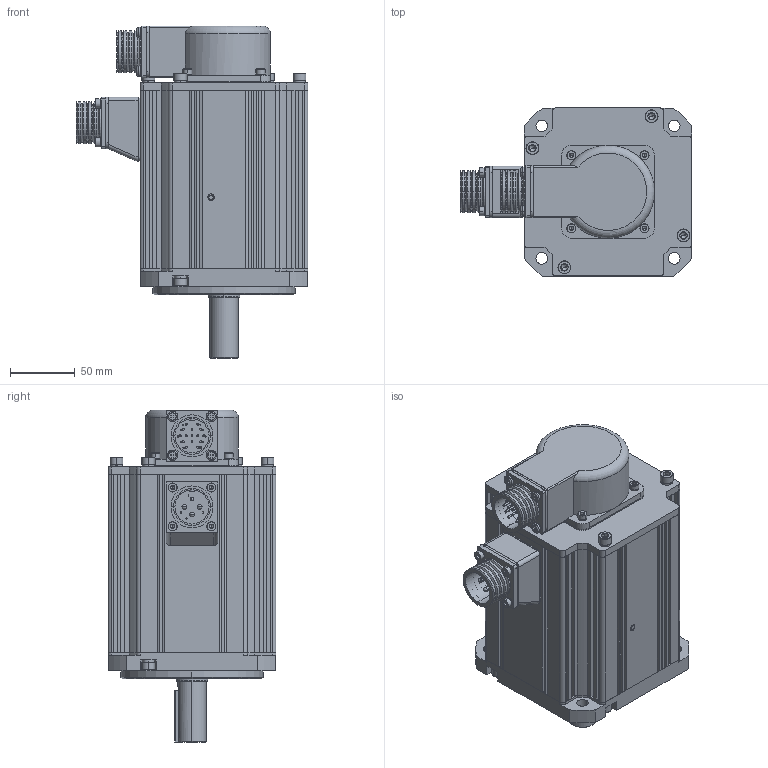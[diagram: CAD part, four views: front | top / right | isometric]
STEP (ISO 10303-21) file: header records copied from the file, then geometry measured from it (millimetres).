
FILE_DESCRIPTION((''),'2;1');
FILE_NAME('SV-MH13-1R3B-X-XA0-1000_ASM_ASM','2019-12-11T',('JWDQ'),(''),'CREO PARAMETRIC BY PTC INC, 2014050','CREO PARAMETRIC BY PTC INC, 2014050','');
FILE_SCHEMA(('CONFIG_CONTROL_DESIGN'));
Products named in the file (30): SV130PT-JK_2_1; 046770000100_1_1_2; 80750004_1_1_2; 78400020_1_1_2; GBT93-4_1_1_2; GBT7R1-4X35_1_1_2; 513704090100_1_1_2; S-YD28-4_ASM_1_1_2_ASM; SV130PT-DZ_ASM_2_1_ASM; SV130PT-ZHOU_2_1_AF0; SV130PT-HG_1_1; SV130DGL-HG_ASM_1_1_ASM; SV130PT-ZHUANZ_ASM_2_1_AF0_ASM; 80100007_1_1_2; 730030000200_1_1_2; SV130-QG_ASM_1_1_2_ASM; GBT1095-6X6-41_2_1; 82340004_1_1_2; 046770000100_1; 513715090100_1_1_2; 78400019_1_1_2; GBT93-4_1; GBT70R1-4X12_1_1_2; M4X16_1_1_2; TS5214_ASM_1_1_2_ASM; GBT93-6_1_1_2; GBT7R1-M6X16_1_1_2; GBT119R1-5X8_1_1; SV130PT_ASM_3_1_AF0_ASM; SV-MH13-1R3B-X-XA0-1000_ASM_ASM
Assembly tree (61 placements, depth 5):
  SV-MH13-1R3B-X-XA0-1000_ASM_ASM
    SV130PT_ASM_3_1_AF0_ASM
      SV130PT-DZ_ASM_2_1_ASM
        SV130PT-JK_2_1
        S-YD28-4_ASM_1_1_2_ASM
          046770000100_1_1_2
          80750004_1_1_2
          78400020_1_1_2
          GBT93-4_1_1_2  x4
          GBT7R1-4X35_1_1_2  x4
          513704090100_1_1_2
      SV130PT-ZHUANZ_ASM_2_1_AF0_ASM
        SV130PT-ZHOU_2_1_AF0
        SV130DGL-HG_ASM_1_1_ASM
          SV130PT-HG_1_1
      SV130-QG_ASM_1_1_2_ASM
        80100007_1_1_2
        730030000200_1_1_2
      GBT1095-6X6-41_2_1
      TS5214_ASM_1_1_2_ASM
        82340004_1_1_2
        046770000100_1
        513715090100_1_1_2
        78400019_1_1_2
        GBT93-4_1  x8
        GBT70R1-4X12_1_1_2  x4
        M4X16_1_1_2  x4
      GBT93-6_1_1_2  x7
      GBT7R1-M6X16_1_1_2  x8
      GBT119R1-5X8_1_1
Bounding box: 179.5 x 130 x 257 mm (x, y, z)
Volume: 974424.5 mm3; surface area: 397325.4 mm2
Topology: 54 solids, 71 shells, 3165 faces, 8261 edges, 5354 vertices
Faces by surface type: plane 1880, cylinder 765, cone 365, torus 102, bspline 27, sphere 26
Entity records: 99516 total; most frequent: CARTESIAN_POINT 16349, DIRECTION 13904, ORIENTED_EDGE 13658, EDGE_CURVE 6837, VECTOR 4716, LINE 4716, AXIS2_PLACEMENT_3D 4594, VERTEX_POINT 4534
